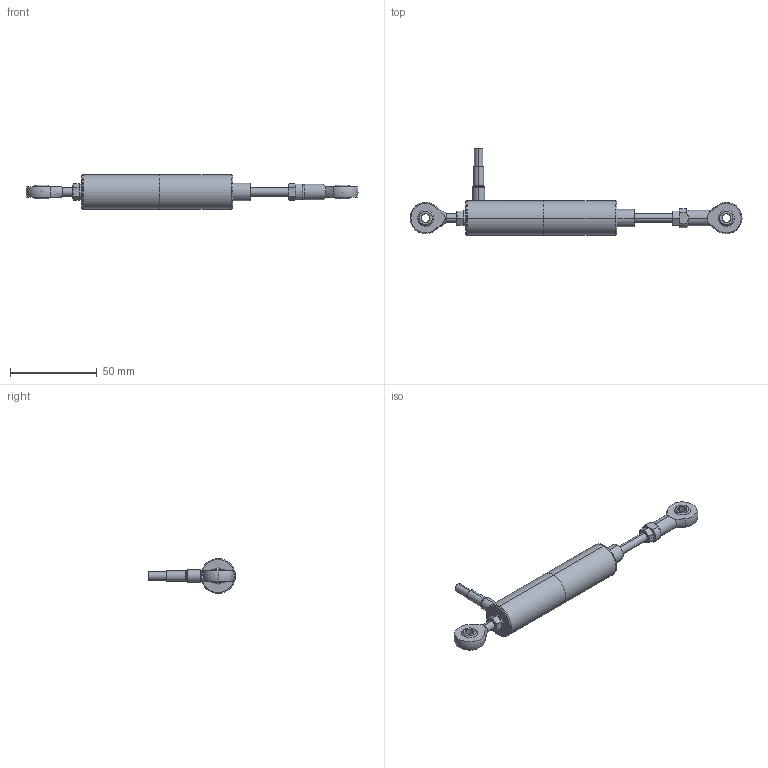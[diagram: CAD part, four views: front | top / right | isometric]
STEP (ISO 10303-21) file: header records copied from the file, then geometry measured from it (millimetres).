
FILE_DESCRIPTION (( 'STEP AP214' ), '1' );
FILE_NAME ('Wegsensor LVDT-ISDG-2-5-K.STEP', '2018-11-12T13:27:24', ( '' ), ( '' ), 'SwSTEP 2.0', 'SolidWorks 2015', '' );
FILE_SCHEMA (( 'AUTOMOTIVE_DESIGN' ));
Length unit declared in the file: millimetre
Products named in the file (1): Wegsensor LVDT-ISDG-2-5-K
Bounding box: 191 x 49.95 x 19.9 mm (x, y, z)
Volume: 33899.2 mm3; surface area: 12661.1 mm2
Topology: 7 solids, 7 shells, 134 faces, 290 edges, 176 vertices
Faces by surface type: plane 42, cone 42, cylinder 34, sphere 12, torus 4
Entity records: 4135 total; most frequent: CARTESIAN_POINT 969, DIRECTION 628, ORIENTED_EDGE 556, AXIS2_PLACEMENT_3D 281, EDGE_CURVE 278, VERTEX_POINT 168, EDGE_LOOP 150, CIRCLE 146
